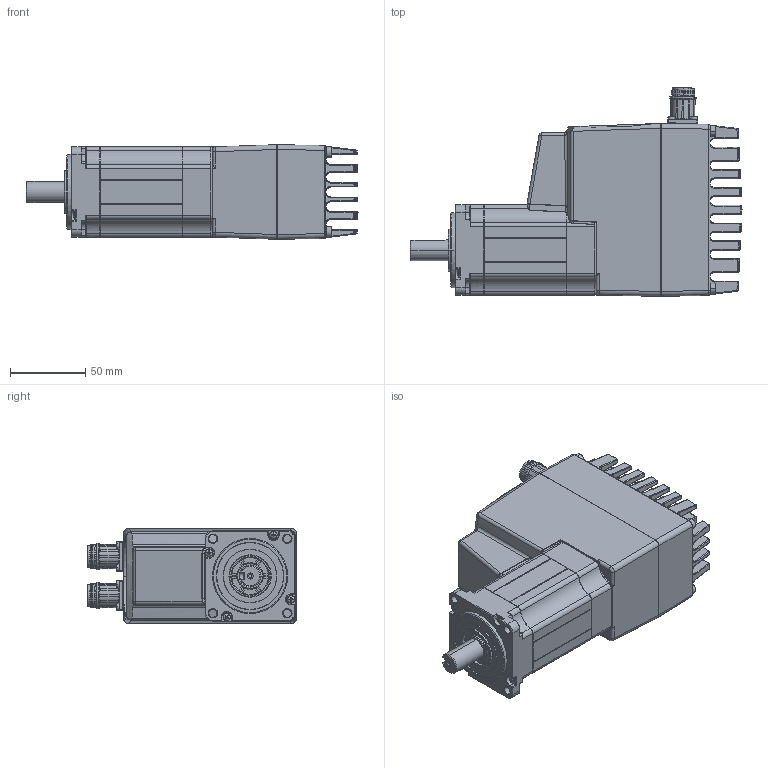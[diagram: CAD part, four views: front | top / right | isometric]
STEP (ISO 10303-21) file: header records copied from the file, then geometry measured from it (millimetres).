
FILE_DESCRIPTION((''),'2;1');
FILE_NAME('STEPPERASSY_ASM','2022-09-02T15:56:10',('Administrator'),(''),'CREO PARAMETRIC BY PTC INC, 2022014','CREO PARAMETRIC BY PTC INC, 2022014','');
FILE_SCHEMA(('AUTOMOTIVE_DESIGN { 1 0 10303 214 1 1 1 1 }'));
Products named in the file (8): NEW_REAR_PART; 400_F; SHAFT_KEY; NEW_CONNECTORS; FINS_BOLT_NEW; 400_BEARING; MAC400_ASM; STEPPERASSY_ASM
Assembly tree (10 placements, depth 3):
  STEPPERASSY_ASM
    MAC400_ASM
      NEW_REAR_PART
      400_F
      SHAFT_KEY
      NEW_CONNECTORS
      FINS_BOLT_NEW  x4
      400_BEARING
Bounding box: 221.05 x 138.87 x 63 mm (x, y, z)
Volume: 903541.6 mm3; surface area: 137115.8 mm2
Topology: 10 solids, 23 shells, 3428 faces, 8274 edges, 4820 vertices
Faces by surface type: cylinder 1371, plane 741, bspline 500, torus 326, cone 262, sphere 214, extrusion 14
Entity records: 163710 total; most frequent: CARTESIAN_POINT 58506, ORIENTED_EDGE 15850, DIRECTION 14194, PRESENTATION_STYLE_ASSIGNMENT 8523, STYLED_ITEM 7991, CURVE_STYLE 7984, EDGE_CURVE 7925, AXIS2_PLACEMENT_3D 5700
